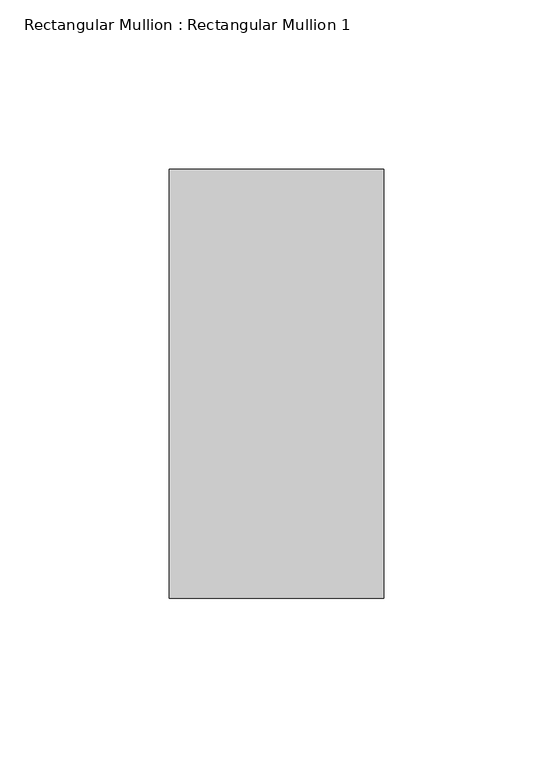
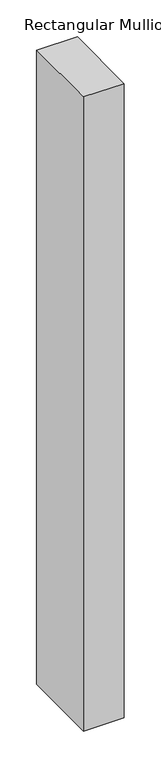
"""IFC4 building model written with IfcOpenShell, lengths in millimetres: member geometry, Rectangular Mullion : Rectangular Mullion 1."""

from ifc_helpers import new_model, si_unit, frame, origin, place, context, project, spatial, polyline, outline, extrude, source, transform, mapped, element, save


def rectangular_mullion_rectangular_mullion_1_6590179b(model_context):
    return source(origin(), model_context, "Body", "SweptSolid", [
        extrude(outline(polyline([(31.75, 63.5), (31.75, -63.5), (-31.75, -63.5), (-31.75, 63.5), (31.75, 63.5)])), frame((0.0, 0.0, -1047.8895219), z_axis=(0.0, 0.0, 1.0), x_axis=(1.0, 0.0, 0.0)), (0.0, 0.0, 1.0), 1047.8895219),
    ])


if __name__ == "__main__":
    model = new_model("IFC4")
    model_context = context("Model", 3, world=origin())
    ifc_project = project(units=[si_unit("LENGTHUNIT", "METRE", prefix="MILLI")], contexts=[model_context])
    site = spatial("IfcSite", under=ifc_project)
    building = spatial("IfcBuilding", under=site)
    placement = place(None, origin())
    rectangular_mullion_rectangular_mullion_1_shape = rectangular_mullion_rectangular_mullion_1_6590179b(model_context)
    element("IfcMember", 1, ObjectType="Rectangular Mullion : Rectangular Mullion 1", at=placement, inside=building, context=model_context, shape_type="MappedRepresentation", body=[
        mapped(rectangular_mullion_rectangular_mullion_1_shape, transform((0.0, 0.0, 0.0), x_axis=(1.0, 0.0, 0.0), y_axis=(0.0, 1.0, 0.0), z_axis=(0.0, 0.0, 1.0))),
    ])
    save(model, "model.ifc")
